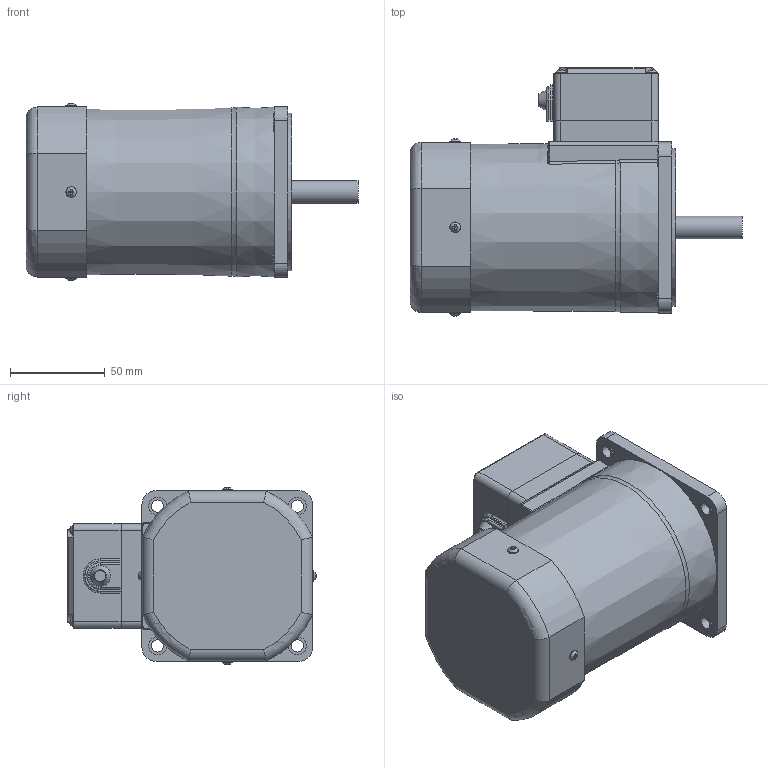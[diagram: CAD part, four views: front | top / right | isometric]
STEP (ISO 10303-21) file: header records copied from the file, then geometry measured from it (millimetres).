
FILE_DESCRIPTION((''),'2;1');
FILE_NAME('D:\김성묵\업무폴더\개발 파일\프로젝트 개발 AB등급\AC표준형 개발자료\90각 이하 표준형 개발\도면작성 자료\3D 도면\홈페이지용 3D 파일\90W MOTOR\T1 BOX TYPE\S9(I,R)90S-T1.stp','2015-03-26T19:09:13',('smkim'),(''),'Autodesk Inventor 2012','Autodesk Inventor 2012','');
FILE_SCHEMA(('AUTOMOTIVE_DESIGN { 1 0 10303 214 1 1 1 1 }'));
Length unit declared in the file: millimetre
Products named in the file (9): S9(I,R)90S-T1; S9I90GㅁTCE; FAN COVER; 552300620; 80 각 T1 BOX_CORD BUSH; 25W T1 BOX CORD BUSH G; 80각 T1 BOX; S9I60S
Assembly tree (15 placements, depth 3):
  S9(I,R)90S-T1
    S9I90GㅁTCE
    FAN COVER
      FAN COVER
      552300620  x4
    80 각 T1 BOX_CORD BUSH
      25W T1 BOX CORD BUSH G
      80각 T1 BOX
    552300620  x4
    S9I60S
Bounding box: 174.8 x 130.75 x 93.49 mm (x, y, z)
Volume: 1097735.9 mm3; surface area: 113126.3 mm2
Topology: 14 solids, 14 shells, 377 faces, 899 edges, 575 vertices
Faces by surface type: plane 216, cylinder 90, bspline 28, torus 27, cone 16
Full cylindrical faces by diameter (mm): 3 x12, 3.5 x4, 5.6 x8, 6.5 x4, 8 x1, 9.5 x4, 12 x1, 40 x1, 83 x1, 86 x1
Entity records: 7471 total; most frequent: CARTESIAN_POINT 2006, DIRECTION 1091, ORIENTED_EDGE 1016, EDGE_CURVE 508, AXIS2_PLACEMENT_3D 418, VERTEX_POINT 348, EDGE_LOOP 296, VECTOR 255
